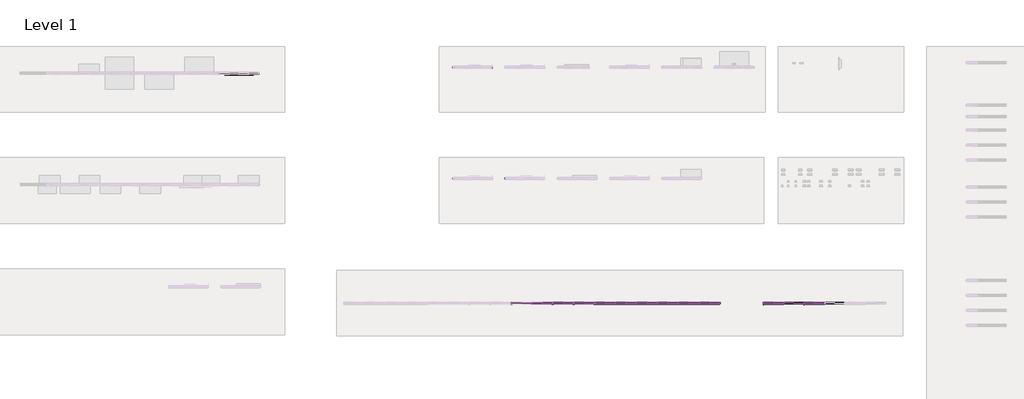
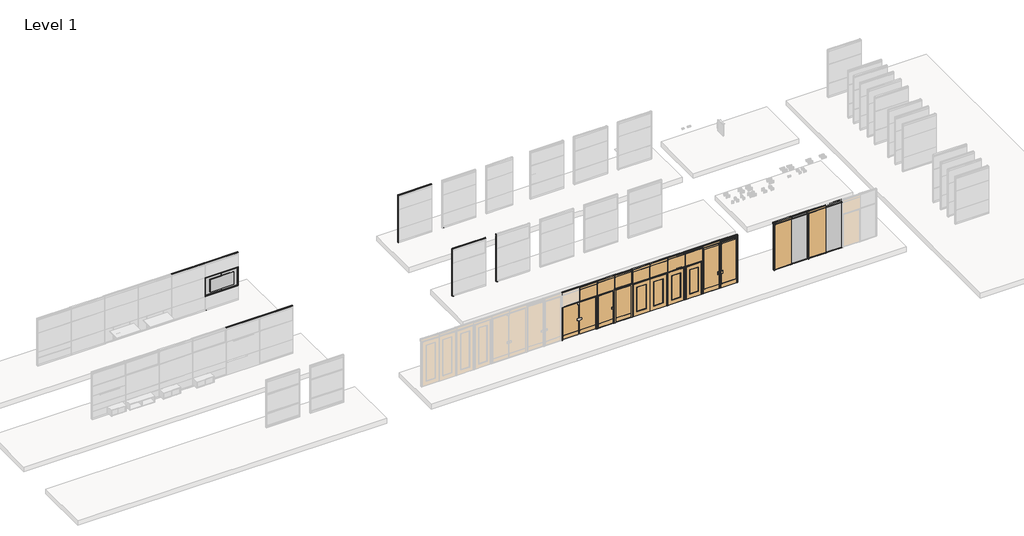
# One storey, part 2 of 13: 62 doors, 55 members, 3 plates.
"""IFC4 building model written with IfcOpenShell, lengths in millimetres."""

from ifc_helpers import new_model, si_unit, origin, place, context, project, spatial, transform, mapped, element, save
from components import door_facb3c76, fascia_door_teknion_ceiling_fpc_b0ff0802, fascia_door_teknion_ceiling_fpc_5290212c, fascia_door_teknion_ceiling_fpc_cee98132, fascia_door_teknion_ceiling_fpc_1744e75c, fascia_door_teknion_ceiling_fpc_97e50246, fascia_door_teknion_ceiling_fpc_d2d9a834, fascia_door_teknion_glass_046dfec6, fascia_door_teknion_glass_85182ea5, fascia_door_teknion_glass_e03882a7, frame_door_teknion_barn_single_glass_ce8aa2a7, frame_door_teknion_barn_single_glass_low_profile_f298f074, frame_door_teknion_horizontal_rail_67457fb7, frame_door_teknion_horizontal_rail_bdd692f0, frame_door_teknion_pivot_low_profile_single_097b559a, frame_door_teknion_pivot_low_profile_single_35d458af, frame_door_teknion_segmented_height_double_338a7b71, frame_door_teknion_single_22a6114e, frame_door_teknion_single_db31a861, glass_insert_7eeb47b9, glass_insert_bf704de9, panel_door_teknion_glass_insert_eabc73e1, panel_door_teknion_glass_insert_9f753669, panel_door_teknion_double_solid_a54a2ffe, panel_door_teknion_glass_glas_door_panel_e6f0001c, panel_door_teknion_glass_glas_door_panel_d5102b43, panel_door_teknion_glass_barn_glass_door_panel_14467133, panel_door_teknion_glass_barn_low_profile_glass_door_panel_56316243, panel_door_teknion_glass_double_glass_double_door_panel_226ff144, panel_door_teknion_low_profile_pivot_77fa765d, panel_door_teknion_low_profile_pivot_glass_insert_89984077, rectangular_mullion_eacba65d, rectangular_mullion_8e80d384, rectangular_mullion_3afcdd40, rectangular_mullion_044499e4, rectangular_mullion_6b0b23d2, rectangular_mullion_f0f61f1f, rectangular_mullion_7ac4b66f, rectangular_mullion_5de60da2, rectangular_mullion_eb75c081, rectangular_mullion_frame_teknion_landscape_vertical_post_05f5e206, rectangular_mullion_frame_teknion_landscape_vertical_post_5ea4eea9, rectangular_mullion_frame_teknion_landscape_vertical_post_1fa3a907, plate_c2148631, system_panel_glazed_ee91c376

model = new_model("IFC4")

# Units and contexts
model_context = context("Model", 3, world=origin())
ifc_project = project(units=[si_unit("LENGTHUNIT", "METRE", prefix="MILLI")], contexts=[model_context])

# Site, building, storey
site = spatial("IfcSite", under=ifc_project)
building = spatial("IfcBuilding", under=site)
storey = spatial("IfcBuildingStorey", under=building, Name="Level 1", Elevation=0.0)

# Doors
placement = place(None, origin())
door_shape = door_facb3c76(model_context)
element("IfcDoor", 1, ObjectType="Door-Hinged_Glass_Segmented_Height-Teknion-Altos-Left_Swing : 84\", Double Glass Fascia", at=placement, inside=storey, context=model_context, shape_type="MappedRepresentation", body=[
    mapped(door_shape, transform((-14098.7760732, 10072.5705104, 3.175), x_axis=(1.0, 0.0, 0.0), y_axis=(0.0, 1.0, 0.0), z_axis=(0.0, 0.0, 1.0))),
])
fascia_door_teknion_ceiling_fpc_shape = fascia_door_teknion_ceiling_fpc_b0ff0802(model_context)
element("IfcDoor", 2, ObjectType="Fascia-Door-Teknion-Ceiling : FPC", at=placement, inside=storey, context=model_context, shape_type="MappedRepresentation", body=[
    mapped(fascia_door_teknion_ceiling_fpc_shape, transform((-6638.170995, 10021.7716559, 2950.845), x_axis=(1.0, 0.0, 0.0), y_axis=(0.0, 1.0, 0.0), z_axis=(0.0, 0.0, 1.0))),
])
element("IfcDoor", 3, ObjectType="Fascia-Door-Teknion-Ceiling : FPC", at=placement, inside=storey, context=model_context, shape_type="MappedRepresentation", body=[
    mapped(fascia_door_teknion_ceiling_fpc_shape, transform((-3377.5318433, 10022.5313649, 2950.845), x_axis=(1.0, 0.0, 0.0), y_axis=(0.0, 1.0, 0.0), z_axis=(0.0, 0.0, 1.0))),
])
fascia_door_teknion_ceiling_fpc_2_shape = fascia_door_teknion_ceiling_fpc_5290212c(model_context)
element("IfcDoor", 4, ObjectType="Fascia-Door-Teknion-Ceiling : FPC", at=placement, inside=storey, context=model_context, shape_type="MappedRepresentation", body=[
    mapped(fascia_door_teknion_ceiling_fpc_2_shape, transform((-6638.170995, 10123.3716559, 2950.845), x_axis=(1.0, 0.0, 0.0), y_axis=(0.0, 1.0, 0.0), z_axis=(0.0, 0.0, 1.0))),
])
element("IfcDoor", 5, ObjectType="Fascia-Door-Teknion-Ceiling : FPC", at=placement, inside=storey, context=model_context, shape_type="MappedRepresentation", body=[
    mapped(fascia_door_teknion_ceiling_fpc_2_shape, transform((-3377.5318433, 10122.6073649, 2950.845), x_axis=(1.0, 0.0, 0.0), y_axis=(0.0, 1.0, 0.0), z_axis=(0.0, 0.0, 1.0))),
])
fascia_door_teknion_ceiling_fpc_3_shape = fascia_door_teknion_ceiling_fpc_cee98132(model_context)
element("IfcDoor", 6, ObjectType="Fascia-Door-Teknion-Ceiling : FPC", at=placement, inside=storey, context=model_context, shape_type="MappedRepresentation", body=[
    mapped(fascia_door_teknion_ceiling_fpc_3_shape, transform((-14098.7760732, 10022.5336559, 2950.845), x_axis=(1.0, 0.0, 0.0), y_axis=(0.0, 1.0, 0.0), z_axis=(0.0, 0.0, 1.0))),
])
element("IfcDoor", 7, ObjectType="Fascia-Door-Teknion-Ceiling : FPC", at=placement, inside=storey, context=model_context, shape_type="MappedRepresentation", body=[
    mapped(fascia_door_teknion_ceiling_fpc_3_shape, transform((-13031.9760732, 10021.7716559, 2950.845), x_axis=(1.0, 0.0, 0.0), y_axis=(0.0, 1.0, 0.0), z_axis=(0.0, 0.0, 1.0))),
])
element("IfcDoor", 8, ObjectType="Fascia-Door-Teknion-Ceiling : FPC", at=placement, inside=storey, context=model_context, shape_type="MappedRepresentation", body=[
    mapped(fascia_door_teknion_ceiling_fpc_3_shape, transform((-9831.5760732, 10021.7716559, 2950.845), x_axis=(1.0, 0.0, 0.0), y_axis=(0.0, 1.0, 0.0), z_axis=(0.0, 0.0, 1.0))),
])
element("IfcDoor", 9, ObjectType="Fascia-Door-Teknion-Ceiling : FPC", at=placement, inside=storey, context=model_context, shape_type="MappedRepresentation", body=[
    mapped(fascia_door_teknion_ceiling_fpc_3_shape, transform((-8764.7760732, 10022.5336559, 2950.845), x_axis=(1.0, 0.0, 0.0), y_axis=(0.0, 1.0, 0.0), z_axis=(0.0, 0.0, 1.0))),
])
element("IfcDoor", 10, ObjectType="Fascia-Door-Teknion-Ceiling : FPC", at=placement, inside=storey, context=model_context, shape_type="MappedRepresentation", body=[
    mapped(fascia_door_teknion_ceiling_fpc_3_shape, transform((-1301.7267652, 10022.5313649, 2950.845), x_axis=(1.0, 0.0, 0.0), y_axis=(0.0, 1.0, 0.0), z_axis=(0.0, 0.0, 1.0))),
])
element("IfcDoor", 11, ObjectType="Fascia-Door-Teknion-Ceiling : FPC", at=placement, inside=storey, context=model_context, shape_type="MappedRepresentation", body=[
    mapped(fascia_door_teknion_ceiling_fpc_3_shape, transform((-7697.9760732, 10021.7716559, 2950.845), x_axis=(1.0, 0.0, 0.0), y_axis=(0.0, 1.0, 0.0), z_axis=(0.0, 0.0, 1.0))),
])
fascia_door_teknion_ceiling_fpc_4_shape = fascia_door_teknion_ceiling_fpc_1744e75c(model_context)
element("IfcDoor", 12, ObjectType="Fascia-Door-Teknion-Ceiling : FPC", at=placement, inside=storey, context=model_context, shape_type="MappedRepresentation", body=[
    mapped(fascia_door_teknion_ceiling_fpc_4_shape, transform((-14098.7760732, 10122.6096559, 2950.845), x_axis=(1.0, 0.0, 0.0), y_axis=(0.0, 1.0, 0.0), z_axis=(0.0, 0.0, 1.0))),
])
element("IfcDoor", 13, ObjectType="Fascia-Door-Teknion-Ceiling : FPC", at=placement, inside=storey, context=model_context, shape_type="MappedRepresentation", body=[
    mapped(fascia_door_teknion_ceiling_fpc_4_shape, transform((-13031.9760732, 10123.3716559, 2950.845), x_axis=(1.0, 0.0, 0.0), y_axis=(0.0, 1.0, 0.0), z_axis=(0.0, 0.0, 1.0))),
])
element("IfcDoor", 14, ObjectType="Fascia-Door-Teknion-Ceiling : FPC", at=placement, inside=storey, context=model_context, shape_type="MappedRepresentation", body=[
    mapped(fascia_door_teknion_ceiling_fpc_4_shape, transform((-9831.5760732, 10123.3716559, 2950.845), x_axis=(1.0, 0.0, 0.0), y_axis=(0.0, 1.0, 0.0), z_axis=(0.0, 0.0, 1.0))),
])
element("IfcDoor", 15, ObjectType="Fascia-Door-Teknion-Ceiling : FPC", at=placement, inside=storey, context=model_context, shape_type="MappedRepresentation", body=[
    mapped(fascia_door_teknion_ceiling_fpc_4_shape, transform((-8764.7760732, 10122.6096559, 2950.845), x_axis=(1.0, 0.0, 0.0), y_axis=(0.0, 1.0, 0.0), z_axis=(0.0, 0.0, 1.0))),
])
element("IfcDoor", 16, ObjectType="Fascia-Door-Teknion-Ceiling : FPC", at=placement, inside=storey, context=model_context, shape_type="MappedRepresentation", body=[
    mapped(fascia_door_teknion_ceiling_fpc_4_shape, transform((-1301.7267652, 10122.6073649, 2950.845), x_axis=(1.0, 0.0, 0.0), y_axis=(0.0, 1.0, 0.0), z_axis=(0.0, 0.0, 1.0))),
])
element("IfcDoor", 17, ObjectType="Fascia-Door-Teknion-Ceiling : FPC", at=placement, inside=storey, context=model_context, shape_type="MappedRepresentation", body=[
    mapped(fascia_door_teknion_ceiling_fpc_4_shape, transform((-7697.9760732, 10123.3716559, 2950.845), x_axis=(1.0, 0.0, 0.0), y_axis=(0.0, 1.0, 0.0), z_axis=(0.0, 0.0, 1.0))),
])
fascia_door_teknion_ceiling_fpc_5_shape = fascia_door_teknion_ceiling_fpc_97e50246(model_context)
element("IfcDoor", 18, ObjectType="Fascia-Door-Teknion-Ceiling : FPC", at=placement, inside=storey, context=model_context, shape_type="MappedRepresentation", body=[
    mapped(fascia_door_teknion_ceiling_fpc_5_shape, transform((-15158.283495, 10123.3716559, 2900.045), x_axis=(1.0, 0.0, 0.0), y_axis=(0.0, 1.0, 0.0), z_axis=(0.0, 0.0, 1.0))),
])
element("IfcDoor", 19, ObjectType="Fascia-Door-Teknion-Ceiling : FPC", at=placement, inside=storey, context=model_context, shape_type="MappedRepresentation", body=[
    mapped(fascia_door_teknion_ceiling_fpc_5_shape, transform((-10891.083495, 10123.3716559, 2900.045), x_axis=(1.0, 0.0, 0.0), y_axis=(0.0, 1.0, 0.0), z_axis=(0.0, 0.0, 1.0))),
])
element("IfcDoor", 20, ObjectType="Fascia-Door-Teknion-Ceiling : FPC", at=placement, inside=storey, context=model_context, shape_type="MappedRepresentation", body=[
    mapped(fascia_door_teknion_ceiling_fpc_5_shape, transform((-11972.4686513, 10123.3716559, 2900.045), x_axis=(1.0, 0.0, 0.0), y_axis=(0.0, 1.0, 0.0), z_axis=(0.0, 0.0, 1.0))),
])
fascia_door_teknion_ceiling_fpc_6_shape = fascia_door_teknion_ceiling_fpc_d2d9a834(model_context)
element("IfcDoor", 21, ObjectType="Fascia-Door-Teknion-Ceiling : FPC", at=placement, inside=storey, context=model_context, shape_type="MappedRepresentation", body=[
    mapped(fascia_door_teknion_ceiling_fpc_6_shape, transform((-15158.283495, 10021.7716559, 2900.045), x_axis=(1.0, 0.0, 0.0), y_axis=(0.0, 1.0, 0.0), z_axis=(0.0, 0.0, 1.0))),
])
element("IfcDoor", 22, ObjectType="Fascia-Door-Teknion-Ceiling : FPC", at=placement, inside=storey, context=model_context, shape_type="MappedRepresentation", body=[
    mapped(fascia_door_teknion_ceiling_fpc_6_shape, transform((-10891.083495, 10021.7716559, 2900.045), x_axis=(1.0, 0.0, 0.0), y_axis=(0.0, 1.0, 0.0), z_axis=(0.0, 0.0, 1.0))),
])
element("IfcDoor", 23, ObjectType="Fascia-Door-Teknion-Ceiling : FPC", at=placement, inside=storey, context=model_context, shape_type="MappedRepresentation", body=[
    mapped(fascia_door_teknion_ceiling_fpc_6_shape, transform((-11972.4686513, 10021.7716559, 2900.045), x_axis=(1.0, 0.0, 0.0), y_axis=(0.0, 1.0, 0.0), z_axis=(0.0, 0.0, 1.0))),
])
fascia_door_teknion_glass_shape = fascia_door_teknion_glass_046dfec6(model_context)
element("IfcDoor", 24, ObjectType="Fascia-Door-Teknion-Glass : FPGD", at=placement, inside=storey, context=model_context, shape_type="MappedRepresentation", body=[
    mapped(fascia_door_teknion_glass_shape, transform((-15165.5709951, 10072.5716559, 2139.95), x_axis=(1.0, 0.0, 0.0), y_axis=(0.0, 1.0, 0.0), z_axis=(0.0, 0.0, 1.0))),
])
element("IfcDoor", 25, ObjectType="Fascia-Door-Teknion-Glass : FPGD", at=placement, inside=storey, context=model_context, shape_type="MappedRepresentation", body=[
    mapped(fascia_door_teknion_glass_shape, transform((-11965.1811512, 10072.5716559, 2139.95), x_axis=(1.0, 0.0, 0.0), y_axis=(0.0, 1.0, 0.0), z_axis=(0.0, 0.0, 1.0))),
])
element("IfcDoor", 26, ObjectType="Fascia-Door-Teknion-Glass : FPGD", at=placement, inside=storey, context=model_context, shape_type="MappedRepresentation", body=[
    mapped(fascia_door_teknion_glass_shape, transform((-10898.3709951, 10072.5716559, 2139.95), x_axis=(1.0, 0.0, 0.0), y_axis=(0.0, 1.0, 0.0), z_axis=(0.0, 0.0, 1.0))),
])
fascia_door_teknion_glass_2_shape = fascia_door_teknion_glass_85182ea5(model_context)
element("IfcDoor", 27, ObjectType="Fascia-Door-Teknion-Glass : FPGD", at=placement, inside=storey, context=model_context, shape_type="MappedRepresentation", body=[
    mapped(fascia_door_teknion_glass_2_shape, transform((-14098.7760732, 10072.5716559, 2139.95), x_axis=(1.0, 0.0, 0.0), y_axis=(0.0, 1.0, 0.0), z_axis=(0.0, 0.0, 1.0))),
])
element("IfcDoor", 28, ObjectType="Fascia-Door-Teknion-Glass : FPGD", at=placement, inside=storey, context=model_context, shape_type="MappedRepresentation", body=[
    mapped(fascia_door_teknion_glass_2_shape, transform((-9831.5760732, 10072.5716559, 2139.95), x_axis=(1.0, 0.0, 0.0), y_axis=(0.0, 1.0, 0.0), z_axis=(0.0, 0.0, 1.0))),
])
element("IfcDoor", 29, ObjectType="Fascia-Door-Teknion-Glass : FPGD", at=placement, inside=storey, context=model_context, shape_type="MappedRepresentation", body=[
    mapped(fascia_door_teknion_glass_2_shape, transform((-8764.7760732, 10072.5716559, 2139.95), x_axis=(1.0, 0.0, 0.0), y_axis=(0.0, 1.0, 0.0), z_axis=(0.0, 0.0, 1.0))),
])
fascia_door_teknion_glass_3_shape = fascia_door_teknion_glass_e03882a7(model_context)
element("IfcDoor", 30, ObjectType="Fascia-Door-Teknion-Glass : FPGC", at=placement, inside=storey, context=model_context, shape_type="MappedRepresentation", body=[
    mapped(fascia_door_teknion_glass_3_shape, transform((-13019.2760732, 10072.5716559, 2139.95), x_axis=(1.0, 0.0, 0.0), y_axis=(0.0, 1.0, 0.0), z_axis=(0.0, 0.0, 1.0))),
])
frame_door_teknion_barn_single_glass_shape = frame_door_teknion_barn_single_glass_ce8aa2a7(model_context)
element("IfcDoor", 31, ObjectType="Frame-Door-Teknion-Barn-Single-Glass : FPBGFJ", at=placement, inside=storey, context=model_context, shape_type="MappedRepresentation", body=[
    mapped(frame_door_teknion_barn_single_glass_shape, transform((-3377.5318433, 10072.5693649, 3.175), x_axis=(1.0, 0.0, 0.0), y_axis=(0.0, 1.0, 0.0), z_axis=(0.0, 0.0, 1.0))),
])
frame_door_teknion_barn_single_glass_low_profile_shape = frame_door_teknion_barn_single_glass_low_profile_f298f074(model_context)
element("IfcDoor", 32, ObjectType="Frame-Door-Teknion-Barn-Single-Glass_Low_Profile : FPUGFJ", at=placement, inside=storey, context=model_context, shape_type="MappedRepresentation", body=[
    mapped(frame_door_teknion_barn_single_glass_low_profile_shape, transform((-1301.7267652, 10072.5693649, 3.175), x_axis=(1.0, 0.0, 0.0), y_axis=(0.0, 1.0, 0.0), z_axis=(0.0, 0.0, 1.0))),
])
frame_door_teknion_horizontal_rail_shape = frame_door_teknion_horizontal_rail_67457fb7(model_context)
element("IfcDoor", 33, ObjectType="Frame-Door-Teknion-Horizontal_Rail : FPKK", at=placement, inside=storey, context=model_context, shape_type="MappedRepresentation", body=[
    mapped(frame_door_teknion_horizontal_rail_shape, transform((-14098.7760732, 10072.5716559, 2139.95), x_axis=(1.0, 0.0, 0.0), y_axis=(0.0, 1.0, 0.0), z_axis=(0.0, 0.0, 1.0))),
])
element("IfcDoor", 34, ObjectType="Frame-Door-Teknion-Horizontal_Rail : FPKK", at=placement, inside=storey, context=model_context, shape_type="MappedRepresentation", body=[
    mapped(frame_door_teknion_horizontal_rail_shape, transform((-14098.7760732, 10072.5716559, 2947.67), x_axis=(1.0, 0.0, 0.0), y_axis=(0.0, 1.0, 0.0), z_axis=(0.0, 0.0, 1.0))),
])
element("IfcDoor", 35, ObjectType="Frame-Door-Teknion-Horizontal_Rail : FPKK", at=placement, inside=storey, context=model_context, shape_type="MappedRepresentation", body=[
    mapped(frame_door_teknion_horizontal_rail_shape, transform((-13031.9760732, 10072.5716559, 2139.95), x_axis=(1.0, 0.0, 0.0), y_axis=(0.0, 1.0, 0.0), z_axis=(0.0, 0.0, 1.0))),
])
element("IfcDoor", 36, ObjectType="Frame-Door-Teknion-Horizontal_Rail : FPKK", at=placement, inside=storey, context=model_context, shape_type="MappedRepresentation", body=[
    mapped(frame_door_teknion_horizontal_rail_shape, transform((-13031.9760732, 10072.5716559, 2947.67), x_axis=(1.0, 0.0, 0.0), y_axis=(0.0, 1.0, 0.0), z_axis=(0.0, 0.0, 1.0))),
])
element("IfcDoor", 37, ObjectType="Frame-Door-Teknion-Horizontal_Rail : FPKK", at=placement, inside=storey, context=model_context, shape_type="MappedRepresentation", body=[
    mapped(frame_door_teknion_horizontal_rail_shape, transform((-9831.5760732, 10072.5716559, 2139.95), x_axis=(1.0, 0.0, 0.0), y_axis=(0.0, 1.0, 0.0), z_axis=(0.0, 0.0, 1.0))),
])
element("IfcDoor", 38, ObjectType="Frame-Door-Teknion-Horizontal_Rail : FPKK", at=placement, inside=storey, context=model_context, shape_type="MappedRepresentation", body=[
    mapped(frame_door_teknion_horizontal_rail_shape, transform((-9831.5760732, 10072.5716559, 2947.67), x_axis=(1.0, 0.0, 0.0), y_axis=(0.0, 1.0, 0.0), z_axis=(0.0, 0.0, 1.0))),
])
element("IfcDoor", 39, ObjectType="Frame-Door-Teknion-Horizontal_Rail : FPKK", at=placement, inside=storey, context=model_context, shape_type="MappedRepresentation", body=[
    mapped(frame_door_teknion_horizontal_rail_shape, transform((-8764.7760732, 10072.5716559, 2139.95), x_axis=(1.0, 0.0, 0.0), y_axis=(0.0, 1.0, 0.0), z_axis=(0.0, 0.0, 1.0))),
])
element("IfcDoor", 40, ObjectType="Frame-Door-Teknion-Horizontal_Rail : FPKK", at=placement, inside=storey, context=model_context, shape_type="MappedRepresentation", body=[
    mapped(frame_door_teknion_horizontal_rail_shape, transform((-8764.7760732, 10072.5716559, 2947.67), x_axis=(1.0, 0.0, 0.0), y_axis=(0.0, 1.0, 0.0), z_axis=(0.0, 0.0, 1.0))),
])
element("IfcDoor", 41, ObjectType="Frame-Door-Teknion-Horizontal_Rail : FPKK", at=placement, inside=storey, context=model_context, shape_type="MappedRepresentation", body=[
    mapped(frame_door_teknion_horizontal_rail_shape, transform((-7697.9760732, 10072.5716559, 2947.67), x_axis=(1.0, 0.0, 0.0), y_axis=(0.0, 1.0, 0.0), z_axis=(0.0, 0.0, 1.0))),
])
frame_door_teknion_horizontal_rail_2_shape = frame_door_teknion_horizontal_rail_bdd692f0(model_context)
element("IfcDoor", 42, ObjectType="Frame-Door-Teknion-Horizontal_Rail : FPKK", at=placement, inside=storey, context=model_context, shape_type="MappedRepresentation", body=[
    mapped(frame_door_teknion_horizontal_rail_2_shape, transform((-6638.170995, 10072.5716559, 2947.67), x_axis=(1.0, 0.0, 0.0), y_axis=(0.0, 1.0, 0.0), z_axis=(0.0, 0.0, 1.0))),
])
frame_door_teknion_pivot_low_profile_single_shape = frame_door_teknion_pivot_low_profile_single_097b559a(model_context)
element("IfcDoor", 43, ObjectType="Frame-Door-Teknion-Pivot_Low_Profile-Single : FPFHS", at=placement, inside=storey, context=model_context, shape_type="MappedRepresentation", body=[
    mapped(frame_door_teknion_pivot_low_profile_single_shape, transform((-6638.170995, 10072.5716559, 3.175), x_axis=(1.0, 0.0, 0.0), y_axis=(0.0, 1.0, 0.0), z_axis=(0.0, 0.0, 1.0))),
])
frame_door_teknion_pivot_low_profile_single_2_shape = frame_door_teknion_pivot_low_profile_single_35d458af(model_context)
element("IfcDoor", 44, ObjectType="Frame-Door-Teknion-Pivot_Low_Profile-Single : FPFHS", at=placement, inside=storey, context=model_context, shape_type="MappedRepresentation", body=[
    mapped(frame_door_teknion_pivot_low_profile_single_2_shape, transform((-7697.9760732, 10072.5716559, 3.175), x_axis=(1.0, 0.0, 0.0), y_axis=(0.0, 1.0, 0.0), z_axis=(0.0, 0.0, 1.0))),
])
frame_door_teknion_segmented_height_double_shape = frame_door_teknion_segmented_height_double_338a7b71(model_context)
element("IfcDoor", 45, ObjectType="Frame-Door-Teknion-Segmented_Height_Double : FPFDS", at=placement, inside=storey, context=model_context, shape_type="MappedRepresentation", body=[
    mapped(frame_door_teknion_segmented_height_double_shape, transform((-11431.7760732, 10072.5716559, 3.175), x_axis=(1.0, 0.0, 0.0), y_axis=(0.0, 1.0, 0.0), z_axis=(0.0, 0.0, 1.0))),
])
element("IfcDoor", 46, ObjectType="Frame-Door-Teknion-Segmented_Height_Double-Glass : FPFJS", at=placement, inside=storey, context=model_context, shape_type="MappedRepresentation", body=[
    mapped(frame_door_teknion_segmented_height_double_shape, transform((-15698.9760732, 10072.5716559, 3.175), x_axis=(1.0, 0.0, 0.0), y_axis=(0.0, 1.0, 0.0), z_axis=(0.0, 0.0, 1.0))),
])
frame_door_teknion_single_shape = frame_door_teknion_single_22a6114e(model_context)
element("IfcDoor", 47, ObjectType="Frame-Door-Teknion-Single : FPFHS", at=placement, inside=storey, context=model_context, shape_type="MappedRepresentation", body=[
    mapped(frame_door_teknion_single_shape, transform((-9831.5760732, 10072.5716559, 3.175), x_axis=(1.0, 0.0, 0.0), y_axis=(0.0, 1.0, 0.0), z_axis=(0.0, 0.0, 1.0))),
])
frame_door_teknion_single_2_shape = frame_door_teknion_single_db31a861(model_context)
element("IfcDoor", 48, ObjectType="Frame-Door-Teknion-Single : FPFHS", at=placement, inside=storey, context=model_context, shape_type="MappedRepresentation", body=[
    mapped(frame_door_teknion_single_2_shape, transform((-8764.7760732, 10072.5716559, 3.175), x_axis=(1.0, 0.0, 0.0), y_axis=(0.0, 1.0, 0.0), z_axis=(0.0, 0.0, 1.0))),
])
element("IfcDoor", 49, ObjectType="Frame-Door-Teknion-Single-Glass : FPFJS", at=placement, inside=storey, context=model_context, shape_type="MappedRepresentation", body=[
    mapped(frame_door_teknion_single_2_shape, transform((-14098.7760732, 10072.5716559, 3.175), x_axis=(1.0, 0.0, 0.0), y_axis=(0.0, 1.0, 0.0), z_axis=(0.0, 0.0, 1.0))),
])
element("IfcDoor", 50, ObjectType="Frame-Door-Teknion-Single-Glass : FPFJS", at=placement, inside=storey, context=model_context, shape_type="MappedRepresentation", body=[
    mapped(frame_door_teknion_single_shape, transform((-13031.9760732, 10072.5716559, 3.175), x_axis=(1.0, 0.0, 0.0), y_axis=(0.0, 1.0, 0.0), z_axis=(0.0, 0.0, 1.0))),
])
glass_insert_shape = glass_insert_7eeb47b9(model_context)
element("IfcDoor", 51, ObjectType="Door-Pivot_Low_Profile-Teknion-Altos-Left_Swing : Glass Insert", at=placement, inside=storey, context=model_context, shape_type="MappedRepresentation", body=[
    mapped(glass_insert_shape, transform((-7697.9760732, 10072.5705104, 3.175), x_axis=(1.0, 0.0, 0.0), y_axis=(0.0, 1.0, 0.0), z_axis=(0.0, 0.0, 1.0))),
])
glass_insert_2_shape = glass_insert_bf704de9(model_context)
element("IfcDoor", 52, ObjectType="Door-Pivot_Low_Profile-Teknion-Altos-Right_Swing : Glass Insert", at=placement, inside=storey, context=model_context, shape_type="MappedRepresentation", body=[
    mapped(glass_insert_2_shape, transform((-6638.170995, 10072.5705104, 3.175), x_axis=(1.0, 0.0, 0.0), y_axis=(0.0, 1.0, 0.0), z_axis=(0.0, 0.0, 1.0))),
])
panel_door_teknion_glass_insert_shape = panel_door_teknion_glass_insert_eabc73e1(model_context)
element("IfcDoor", 53, ObjectType="Panel-Door-Teknion : Glass Insert", at=placement, inside=storey, context=model_context, shape_type="MappedRepresentation", body=[
    mapped(panel_door_teknion_glass_insert_shape, transform((-9832.5186735, 10043.9966559, 3.175), x_axis=(1.0, 0.0, 0.0), y_axis=(0.0, 1.0, 0.0), z_axis=(0.0, 0.0, 1.0))),
])
panel_door_teknion_glass_insert_2_shape = panel_door_teknion_glass_insert_9f753669(model_context)
element("IfcDoor", 54, ObjectType="Panel-Door-Teknion : Glass Insert", at=placement, inside=storey, context=model_context, shape_type="MappedRepresentation", body=[
    mapped(panel_door_teknion_glass_insert_2_shape, transform((-8763.7600732, 10044.7586559, 3.175), x_axis=(-1.0, 0.0, 0.0), y_axis=(0.0, -1.0, 0.0), z_axis=(0.0, 0.0, 1.0))),
])
panel_door_teknion_double_solid_shape = panel_door_teknion_double_solid_a54a2ffe(model_context)
element("IfcDoor", 55, ObjectType="Panel-Door-Teknion-Double : Solid", at=placement, inside=storey, context=model_context, shape_type="MappedRepresentation", body=[
    mapped(panel_door_teknion_double_solid_shape, transform((-11921.6785732, 10043.9966559, 3.175), x_axis=(1.0, 0.0, 0.0), y_axis=(0.0, 1.0, 0.0), z_axis=(0.0, 0.0, 1.0))),
])
panel_door_teknion_glass_glas_door_panel_shape = panel_door_teknion_glass_glas_door_panel_e6f0001c(model_context)
element("IfcDoor", 56, ObjectType="Panel-Door-Teknion-Glass : Glas Door Panel", at=placement, inside=storey, context=model_context, shape_type="MappedRepresentation", body=[
    mapped(panel_door_teknion_glass_glas_door_panel_shape, transform((-14098.2807732, 10065.4411149, 3.175), x_axis=(1.0, 0.0, 0.0), y_axis=(0.0, 1.0, 0.0), z_axis=(0.0, 0.0, 1.0))),
])
panel_door_teknion_glass_glas_door_panel_2_shape = panel_door_teknion_glass_glas_door_panel_d5102b43(model_context)
element("IfcDoor", 57, ObjectType="Panel-Door-Teknion-Glass : Glas Door Panel", at=placement, inside=storey, context=model_context, shape_type="MappedRepresentation", body=[
    mapped(panel_door_teknion_glass_glas_door_panel_2_shape, transform((-13031.4807732, 10065.4411149, 3.175), x_axis=(-1.0, 0.0, 0.0), y_axis=(0.0, -1.0, 0.0), z_axis=(0.0, 0.0, 1.0))),
])
panel_door_teknion_glass_barn_glass_door_panel_shape = panel_door_teknion_glass_barn_glass_door_panel_14467133(model_context)
element("IfcDoor", 58, ObjectType="Panel-Door-Teknion-Glass-Barn : Glass Door Panel", at=placement, inside=storey, context=model_context, shape_type="MappedRepresentation", body=[
    mapped(panel_door_teknion_glass_barn_glass_door_panel_shape, transform((-3374.576595, 10007.6610549, 3.175), x_axis=(-1.0, 0.0, 0.0), y_axis=(0.0, -1.0, 0.0), z_axis=(0.0, 0.0, 1.0))),
])
panel_door_teknion_glass_barn_low_profile_glass_door_panel_shape = panel_door_teknion_glass_barn_low_profile_glass_door_panel_56316243(model_context)
element("IfcDoor", 59, ObjectType="Panel-Door-Teknion-Glass-Barn_Low_Profile : Glass Door Panel", at=placement, inside=storey, context=model_context, shape_type="MappedRepresentation", body=[
    mapped(panel_door_teknion_glass_barn_low_profile_glass_door_panel_shape, transform((-1298.7715169, 10004.4084649, 3.175), x_axis=(-1.0, 0.0, 0.0), y_axis=(0.0, -1.0, 0.0), z_axis=(0.0, 0.0, 1.0))),
])
panel_door_teknion_glass_double_glass_double_door_panel_shape = panel_door_teknion_glass_double_glass_double_door_panel_226ff144(model_context)
element("IfcDoor", 60, ObjectType="Panel-Door-Teknion-Glass-Double : Glass Double Door Panel", at=placement, inside=storey, context=model_context, shape_type="MappedRepresentation", body=[
    mapped(panel_door_teknion_glass_double_glass_double_door_panel_shape, transform((-15724.3760732, 10065.4469559, 3.175), x_axis=(1.0, 0.0, 0.0), y_axis=(0.0, 1.0, 0.0), z_axis=(0.0, 0.0, 1.0))),
])
panel_door_teknion_low_profile_pivot_shape = panel_door_teknion_low_profile_pivot_77fa765d(model_context)
element("IfcDoor", 61, ObjectType="Panel-Door-Teknion-Low_Profile_Pivot : FPDPZ", at=placement, inside=storey, context=model_context, shape_type="MappedRepresentation", body=[
    mapped(panel_door_teknion_low_profile_pivot_shape, transform((-7697.9760732, 10045.5206559, 3.175), x_axis=(-1.0, 0.0, 0.0), y_axis=(0.0, -1.0, 0.0), z_axis=(0.0, 0.0, 1.0))),
])
panel_door_teknion_low_profile_pivot_glass_insert_shape = panel_door_teknion_low_profile_pivot_glass_insert_89984077(model_context)
element("IfcDoor", 62, ObjectType="Panel-Door-Teknion-Low_Profile_Pivot : Glass Insert", at=placement, inside=storey, context=model_context, shape_type="MappedRepresentation", body=[
    mapped(panel_door_teknion_low_profile_pivot_glass_insert_shape, transform((-6638.170995, 10045.5206559, 3.175), x_axis=(-1.0, 0.0, 0.0), y_axis=(0.0, -1.0, 0.0), z_axis=(0.0, 0.0, 1.0))),
])

# Members
rectangular_mullion_shape = rectangular_mullion_eacba65d(model_context)
element("IfcMember", 63, ObjectType="Rectangular Mullion : Frame-Teknion-Altos-Ceiling_Channel", at=placement, inside=storey, context=model_context, shape_type="MappedRepresentation", body=[
    mapped(rectangular_mullion_shape, transform((-6125.7557607, 10072.5705104, 3048.0), x_axis=(0.0, 0.0, 1.0), y_axis=(0.0, -1.0, 0.0), z_axis=(1.0, 0.0, 0.0))),
])
element("IfcMember", 64, ObjectType="Rectangular Mullion : Frame-Teknion-Altos-Ceiling_Channel", at=placement, inside=storey, context=model_context, shape_type="MappedRepresentation", body=[
    mapped(rectangular_mullion_shape, transform((-2865.1166089, 10072.5705104, 3048.0), x_axis=(0.0, 0.0, 1.0), y_axis=(0.0, -1.0, 0.0), z_axis=(1.0, 0.0, 0.0))),
])
rectangular_mullion_2_shape = rectangular_mullion_8e80d384(model_context)
element("IfcMember", 65, ObjectType="Rectangular Mullion : Frame-Teknion-Altos-Base_Channel", at=placement, inside=storey, context=model_context, shape_type="MappedRepresentation", body=[
    mapped(rectangular_mullion_2_shape, transform((-7150.5862294, 10072.5705104, 0.0), x_axis=(0.0, 0.0, -1.0), y_axis=(0.0, -1.0, 0.0), z_axis=(-1.0, 0.0, 0.0))),
])
element("IfcMember", 66, ObjectType="Rectangular Mullion : Frame-Teknion-Altos-Base_Channel", at=placement, inside=storey, context=model_context, shape_type="MappedRepresentation", body=[
    mapped(rectangular_mullion_2_shape, transform((-3889.9470777, 10072.5705104, 0.0), x_axis=(0.0, 0.0, -1.0), y_axis=(0.0, -1.0, 0.0), z_axis=(-1.0, 0.0, 0.0))),
])
rectangular_mullion_3_shape = rectangular_mullion_3afcdd40(model_context)
element("IfcMember", 67, ObjectType="Rectangular Mullion : Frame-Teknion-Altos-Base_Channel", at=placement, inside=storey, context=model_context, shape_type="MappedRepresentation", body=[
    mapped(rectangular_mullion_3_shape, transform((-14618.1862294, 10072.5705104, 0.0), x_axis=(0.0, 0.0, -1.0), y_axis=(0.0, -1.0, 0.0), z_axis=(-1.0, 0.0, 0.0))),
])
element("IfcMember", 68, ObjectType="Rectangular Mullion : Frame-Teknion-Altos-Base_Channel", at=placement, inside=storey, context=model_context, shape_type="MappedRepresentation", body=[
    mapped(rectangular_mullion_3_shape, transform((-13551.3862294, 10072.5705104, 0.0), x_axis=(0.0, 0.0, -1.0), y_axis=(0.0, -1.0, 0.0), z_axis=(-1.0, 0.0, 0.0))),
])
element("IfcMember", 69, ObjectType="Rectangular Mullion : Frame-Teknion-Altos-Base_Channel", at=placement, inside=storey, context=model_context, shape_type="MappedRepresentation", body=[
    mapped(rectangular_mullion_3_shape, transform((-10350.9862294, 10072.5705104, 0.0), x_axis=(0.0, 0.0, -1.0), y_axis=(0.0, -1.0, 0.0), z_axis=(-1.0, 0.0, 0.0))),
])
element("IfcMember", 70, ObjectType="Rectangular Mullion : Frame-Teknion-Altos-Base_Channel", at=placement, inside=storey, context=model_context, shape_type="MappedRepresentation", body=[
    mapped(rectangular_mullion_3_shape, transform((-9284.1862294, 10072.5705104, 0.0), x_axis=(0.0, 0.0, -1.0), y_axis=(0.0, -1.0, 0.0), z_axis=(-1.0, 0.0, 0.0))),
])
element("IfcMember", 71, ObjectType="Rectangular Mullion : Frame-Teknion-Altos-Base_Channel", at=placement, inside=storey, context=model_context, shape_type="MappedRepresentation", body=[
    mapped(rectangular_mullion_3_shape, transform((-8217.3862294, 10072.5705104, 0.0), x_axis=(0.0, 0.0, -1.0), y_axis=(0.0, -1.0, 0.0), z_axis=(-1.0, 0.0, 0.0))),
])
element("IfcMember", 72, ObjectType="Rectangular Mullion : Frame-Teknion-Altos-Base_Channel", at=placement, inside=storey, context=model_context, shape_type="MappedRepresentation", body=[
    mapped(rectangular_mullion_3_shape, transform((-1821.1369214, 10072.5705104, 0.0), x_axis=(0.0, 0.0, -1.0), y_axis=(0.0, -1.0, 0.0), z_axis=(-1.0, 0.0, 0.0))),
])
element("IfcMember", 73, ObjectType="Rectangular Mullion : Frame-Teknion-Altos-Ceiling_Channel", at=placement, inside=storey, context=model_context, shape_type="MappedRepresentation", body=[
    mapped(rectangular_mullion_3_shape, transform((-13579.3659169, 10072.5705104, 3048.0), x_axis=(0.0, 0.0, 1.0), y_axis=(0.0, -1.0, 0.0), z_axis=(1.0, 0.0, 0.0))),
])
element("IfcMember", 74, ObjectType="Rectangular Mullion : Frame-Teknion-Altos-Ceiling_Channel", at=placement, inside=storey, context=model_context, shape_type="MappedRepresentation", body=[
    mapped(rectangular_mullion_3_shape, transform((-12512.5659169, 10072.5705104, 3048.0), x_axis=(0.0, 0.0, 1.0), y_axis=(0.0, -1.0, 0.0), z_axis=(1.0, 0.0, 0.0))),
])
element("IfcMember", 75, ObjectType="Rectangular Mullion : Frame-Teknion-Altos-Ceiling_Channel", at=placement, inside=storey, context=model_context, shape_type="MappedRepresentation", body=[
    mapped(rectangular_mullion_3_shape, transform((-9312.1659169, 10072.5705104, 3048.0), x_axis=(0.0, 0.0, 1.0), y_axis=(0.0, -1.0, 0.0), z_axis=(1.0, 0.0, 0.0))),
])
element("IfcMember", 76, ObjectType="Rectangular Mullion : Frame-Teknion-Altos-Ceiling_Channel", at=placement, inside=storey, context=model_context, shape_type="MappedRepresentation", body=[
    mapped(rectangular_mullion_3_shape, transform((-8245.3659169, 10072.5705104, 3048.0), x_axis=(0.0, 0.0, 1.0), y_axis=(0.0, -1.0, 0.0), z_axis=(1.0, 0.0, 0.0))),
])
element("IfcMember", 77, ObjectType="Rectangular Mullion : Frame-Teknion-Altos-Ceiling_Channel", at=placement, inside=storey, context=model_context, shape_type="MappedRepresentation", body=[
    mapped(rectangular_mullion_3_shape, transform((-7178.5659169, 10072.5705104, 3048.0), x_axis=(0.0, 0.0, 1.0), y_axis=(0.0, -1.0, 0.0), z_axis=(1.0, 0.0, 0.0))),
])
element("IfcMember", 78, ObjectType="Rectangular Mullion : Frame-Teknion-Altos-Ceiling_Channel", at=placement, inside=storey, context=model_context, shape_type="MappedRepresentation", body=[
    mapped(rectangular_mullion_3_shape, transform((-782.3166089, 10072.5705104, 3048.0), x_axis=(0.0, 0.0, 1.0), y_axis=(0.0, -1.0, 0.0), z_axis=(1.0, 0.0, 0.0))),
])
rectangular_mullion_4_shape = rectangular_mullion_044499e4(model_context)
element("IfcMember", 79, ObjectType="Rectangular Mullion : Frame-Teknion-Altos-Ceiling_Channel", at=placement, inside=storey, context=model_context, shape_type="MappedRepresentation", body=[
    mapped(rectangular_mullion_4_shape, transform((-14646.1659169, 10072.5705104, 3048.0), x_axis=(0.0, 0.0, 1.0), y_axis=(0.0, -1.0, 0.0), z_axis=(1.0, 0.0, 0.0))),
])
element("IfcMember", 80, ObjectType="Rectangular Mullion : Frame-Teknion-Altos-Ceiling_Channel", at=placement, inside=storey, context=model_context, shape_type="MappedRepresentation", body=[
    mapped(rectangular_mullion_4_shape, transform((-10378.9659169, 10072.5705104, 3048.0), x_axis=(0.0, 0.0, 1.0), y_axis=(0.0, -1.0, 0.0), z_axis=(1.0, 0.0, 0.0))),
])
element("IfcMember", 81, ObjectType="Rectangular Mullion : Frame-Teknion-Altos-Base_Channel", at=placement, inside=storey, context=model_context, shape_type="MappedRepresentation", body=[
    mapped(rectangular_mullion_4_shape, transform((-12484.5862294, 10072.5705104, 0.0), x_axis=(0.0, 0.0, -1.0), y_axis=(0.0, -1.0, 0.0), z_axis=(-1.0, 0.0, 0.0))),
])
rectangular_mullion_5_shape = rectangular_mullion_6b0b23d2(model_context)
element("IfcMember", 82, ObjectType="Rectangular Mullion : Frame-Teknion-Altos-Base_Channel", at=placement, inside=storey, context=model_context, shape_type="MappedRepresentation", body=[
    mapped(rectangular_mullion_5_shape, transform((-2837.1369214, 10072.5705104, 0.0), x_axis=(0.0, 0.0, -1.0), y_axis=(0.0, -1.0, 0.0), z_axis=(-1.0, 0.0, 0.0))),
])
element("IfcMember", 83, ObjectType="Rectangular Mullion : Frame-Teknion-Altos-Base_Channel", at=placement, inside=storey, context=model_context, shape_type="MappedRepresentation", body=[
    mapped(rectangular_mullion_5_shape, transform((-754.3369214, 10072.5705104, 0.0), x_axis=(0.0, 0.0, -1.0), y_axis=(0.0, -1.0, 0.0), z_axis=(-1.0, 0.0, 0.0))),
])
element("IfcMember", 84, ObjectType="Rectangular Mullion : Frame-Teknion-Altos-Ceiling_Channel", at=placement, inside=storey, context=model_context, shape_type="MappedRepresentation", body=[
    mapped(rectangular_mullion_5_shape, transform((-1849.1166089, 10072.5705104, 3048.0), x_axis=(0.0, 0.0, 1.0), y_axis=(0.0, -1.0, 0.0), z_axis=(1.0, 0.0, 0.0))),
])
rectangular_mullion_6_shape = rectangular_mullion_f0f61f1f(model_context)
element("IfcMember", 85, ObjectType="Rectangular Mullion : Frame-Teknion-Altos-Ceiling_Channel", at=placement, inside=storey, context=model_context, shape_type="MappedRepresentation", body=[
    mapped(rectangular_mullion_6_shape, transform((-17738.145849, 22107.2569796, 3048.0), x_axis=(0.0, 0.0, 1.0), y_axis=(0.0, -1.0, 0.0), z_axis=(1.0, 0.0, 0.0))),
])
element("IfcMember", 86, ObjectType="Rectangular Mullion : Frame-Teknion-Altos-Ceiling_Channel", at=placement, inside=storey, context=model_context, shape_type="MappedRepresentation", body=[
    mapped(rectangular_mullion_6_shape, transform((-17738.145849, 16425.5309796, 3048.0), x_axis=(0.0, 0.0, 1.0), y_axis=(0.0, -1.0, 0.0), z_axis=(1.0, 0.0, 0.0))),
])
element("IfcMember", 87, ObjectType="Rectangular Mullion : Frame-Teknion-Altos-Base_Channel", at=placement, inside=storey, context=model_context, shape_type="MappedRepresentation", body=[
    mapped(rectangular_mullion_6_shape, transform((-19714.186474, 22107.2569796, 0.0), x_axis=(0.0, 0.0, -1.0), y_axis=(0.0, -1.0, 0.0), z_axis=(-1.0, 0.0, 0.0))),
])
element("IfcMember", 88, ObjectType="Rectangular Mullion : Frame-Teknion-Altos-Base_Channel", at=placement, inside=storey, context=model_context, shape_type="MappedRepresentation", body=[
    mapped(rectangular_mullion_6_shape, transform((-17047.186474, 22107.2569796, 0.0), x_axis=(0.0, 0.0, -1.0), y_axis=(0.0, -1.0, 0.0), z_axis=(-1.0, 0.0, 0.0))),
])
element("IfcMember", 89, ObjectType="Rectangular Mullion : Frame-Teknion-Altos-Base_Channel", at=placement, inside=storey, context=model_context, shape_type="MappedRepresentation", body=[
    mapped(rectangular_mullion_6_shape, transform((-19714.186474, 16425.5309796, 0.0), x_axis=(0.0, 0.0, -1.0), y_axis=(0.0, -1.0, 0.0), z_axis=(-1.0, 0.0, 0.0))),
])
element("IfcMember", 90, ObjectType="Rectangular Mullion : Frame-Teknion-Altos-Base_Channel", at=placement, inside=storey, context=model_context, shape_type="MappedRepresentation", body=[
    mapped(rectangular_mullion_6_shape, transform((-17047.186474, 16425.5309796, 0.0), x_axis=(0.0, 0.0, -1.0), y_axis=(0.0, -1.0, 0.0), z_axis=(-1.0, 0.0, 0.0))),
])
rectangular_mullion_7_shape = rectangular_mullion_7ac4b66f(model_context)
element("IfcMember", 91, ObjectType="Rectangular Mullion : Frame-Teknion-Altos-Base_Channel", at=placement, inside=storey, context=model_context, shape_type="MappedRepresentation", body=[
    mapped(rectangular_mullion_7_shape, transform((-31606.5170834, 16120.7309796, 0.0), x_axis=(0.0, 0.0, -1.0), y_axis=(0.0, -1.0, 0.0), z_axis=(-1.0, 0.0, 0.0))),
])
element("IfcMember", 92, ObjectType="Rectangular Mullion : Frame-Teknion-Altos-Base_Channel", at=placement, inside=storey, context=model_context, shape_type="MappedRepresentation", body=[
    mapped(rectangular_mullion_7_shape, transform((-31631.9170834, 21802.4569796, 0.0), x_axis=(0.0, 0.0, -1.0), y_axis=(0.0, -1.0, 0.0), z_axis=(-1.0, 0.0, 0.0))),
])
rectangular_mullion_8_shape = rectangular_mullion_5de60da2(model_context)
element("IfcMember", 93, ObjectType="Rectangular Mullion : Frame-Teknion-Altos-Ceiling_Channel", at=placement, inside=storey, context=model_context, shape_type="MappedRepresentation", body=[
    mapped(rectangular_mullion_8_shape, transform((-29641.8866147, 21802.4569796, 3048.0), x_axis=(0.0, 0.0, 1.0), y_axis=(0.0, -1.0, 0.0), z_axis=(1.0, 0.0, 0.0))),
])
element("IfcMember", 94, ObjectType="Rectangular Mullion : Frame-Teknion-Altos-Ceiling_Channel", at=placement, inside=storey, context=model_context, shape_type="MappedRepresentation", body=[
    mapped(rectangular_mullion_8_shape, transform((-29616.4866147, 16120.7309796, 3048.0), x_axis=(0.0, 0.0, 1.0), y_axis=(0.0, -1.0, 0.0), z_axis=(1.0, 0.0, 0.0))),
])
rectangular_mullion_9_shape = rectangular_mullion_eb75c081(model_context)
element("IfcMember", 95, ObjectType="Rectangular Mullion : Frame-Teknion-Altos-Ceiling_Channel", at=placement, inside=storey, context=model_context, shape_type="MappedRepresentation", body=[
    mapped(rectangular_mullion_9_shape, transform((-31634.4967709, 16120.7309796, 3048.0), x_axis=(0.0, 0.0, 1.0), y_axis=(0.0, -1.0, 0.0), z_axis=(1.0, 0.0, 0.0))),
])
element("IfcMember", 96, ObjectType="Rectangular Mullion : Frame-Teknion-Altos-Ceiling_Channel", at=placement, inside=storey, context=model_context, shape_type="MappedRepresentation", body=[
    mapped(rectangular_mullion_9_shape, transform((-31659.8967709, 21802.4569796, 3048.0), x_axis=(0.0, 0.0, 1.0), y_axis=(0.0, -1.0, 0.0), z_axis=(1.0, 0.0, 0.0))),
])
rectangular_mullion_frame_teknion_landscape_vertical_post_shape = rectangular_mullion_frame_teknion_landscape_vertical_post_05f5e206(model_context)
element("IfcMember", 97, ObjectType="Rectangular Mullion : Frame-Teknion-Landscape_Vertical_Post", at=placement, inside=storey, context=model_context, shape_type="MappedRepresentation", body=[
    mapped(rectangular_mullion_frame_teknion_landscape_vertical_post_shape, transform((-31620.5069272, 16120.7309796, 0.0), x_axis=(1.0, 0.0, 0.0), y_axis=(0.0, -1.0, 0.0), z_axis=(0.0, 0.0, -1.0))),
])
element("IfcMember", 98, ObjectType="Rectangular Mullion : Frame-Teknion-Landscape_Vertical_Post", at=placement, inside=storey, context=model_context, shape_type="MappedRepresentation", body=[
    mapped(rectangular_mullion_frame_teknion_landscape_vertical_post_shape, transform((-14632.1760732, 10072.5705104, 0.0), x_axis=(1.0, 0.0, 0.0), y_axis=(0.0, -1.0, 0.0), z_axis=(0.0, 0.0, -1.0))),
])
element("IfcMember", 99, ObjectType="Rectangular Mullion : Frame-Teknion-Landscape_Vertical_Post", at=placement, inside=storey, context=model_context, shape_type="MappedRepresentation", body=[
    mapped(rectangular_mullion_frame_teknion_landscape_vertical_post_shape, transform((-13565.3760732, 10072.5705104, 0.0), x_axis=(1.0, 0.0, 0.0), y_axis=(0.0, -1.0, 0.0), z_axis=(0.0, 0.0, -1.0))),
])
element("IfcMember", 100, ObjectType="Rectangular Mullion : Frame-Teknion-Landscape_Vertical_Post", at=placement, inside=storey, context=model_context, shape_type="MappedRepresentation", body=[
    mapped(rectangular_mullion_frame_teknion_landscape_vertical_post_shape, transform((-12498.5760732, 10072.5705104, 0.0), x_axis=(1.0, 0.0, 0.0), y_axis=(0.0, -1.0, 0.0), z_axis=(0.0, 0.0, -1.0))),
])
element("IfcMember", 101, ObjectType="Rectangular Mullion : Frame-Teknion-Landscape_Vertical_Post", at=placement, inside=storey, context=model_context, shape_type="MappedRepresentation", body=[
    mapped(rectangular_mullion_frame_teknion_landscape_vertical_post_shape, transform((-10364.9760732, 10072.5705104, 0.0), x_axis=(1.0, 0.0, 0.0), y_axis=(0.0, -1.0, 0.0), z_axis=(0.0, 0.0, -1.0))),
])
element("IfcMember", 102, ObjectType="Rectangular Mullion : Frame-Teknion-Landscape_Vertical_Post", at=placement, inside=storey, context=model_context, shape_type="MappedRepresentation", body=[
    mapped(rectangular_mullion_frame_teknion_landscape_vertical_post_shape, transform((-9298.1760732, 10072.5705104, 0.0), x_axis=(1.0, 0.0, 0.0), y_axis=(0.0, -1.0, 0.0), z_axis=(0.0, 0.0, -1.0))),
])
element("IfcMember", 103, ObjectType="Rectangular Mullion : Frame-Teknion-Landscape_Vertical_Post", at=placement, inside=storey, context=model_context, shape_type="MappedRepresentation", body=[
    mapped(rectangular_mullion_frame_teknion_landscape_vertical_post_shape, transform((-8231.3760732, 10072.5705104, 0.0), x_axis=(1.0, 0.0, 0.0), y_axis=(0.0, -1.0, 0.0), z_axis=(0.0, 0.0, -1.0))),
])
element("IfcMember", 104, ObjectType="Rectangular Mullion : Frame-Teknion-Landscape_Vertical_Post", at=placement, inside=storey, context=model_context, shape_type="MappedRepresentation", body=[
    mapped(rectangular_mullion_frame_teknion_landscape_vertical_post_shape, transform((-7164.5760732, 10072.5705104, 0.0), x_axis=(1.0, 0.0, 0.0), y_axis=(0.0, -1.0, 0.0), z_axis=(0.0, 0.0, -1.0))),
])
element("IfcMember", 105, ObjectType="Rectangular Mullion : Frame-Teknion-Landscape_Vertical_Post", at=placement, inside=storey, context=model_context, shape_type="MappedRepresentation", body=[
    mapped(rectangular_mullion_frame_teknion_landscape_vertical_post_shape, transform((-2851.1267652, 10072.5705104, 0.0), x_axis=(1.0, 0.0, 0.0), y_axis=(0.0, -1.0, 0.0), z_axis=(0.0, 0.0, -1.0))),
])
element("IfcMember", 106, ObjectType="Rectangular Mullion : Frame-Teknion-Landscape_Vertical_Post", at=placement, inside=storey, context=model_context, shape_type="MappedRepresentation", body=[
    mapped(rectangular_mullion_frame_teknion_landscape_vertical_post_shape, transform((-1835.1267652, 10072.5705104, 0.0), x_axis=(1.0, 0.0, 0.0), y_axis=(0.0, -1.0, 0.0), z_axis=(0.0, 0.0, -1.0))),
])
element("IfcMember", 107, ObjectType="Rectangular Mullion : Frame-Teknion-Landscape_Vertical_Post", at=placement, inside=storey, context=model_context, shape_type="MappedRepresentation", body=[
    mapped(rectangular_mullion_frame_teknion_landscape_vertical_post_shape, transform((-768.3267652, 10072.5705104, 0.0), x_axis=(1.0, 0.0, 0.0), y_axis=(0.0, -1.0, 0.0), z_axis=(0.0, 0.0, -1.0))),
])
element("IfcMember", 108, ObjectType="Rectangular Mullion : Frame-Teknion-Landscape_Vertical_Post", at=placement, inside=storey, context=model_context, shape_type="MappedRepresentation", body=[
    mapped(rectangular_mullion_frame_teknion_landscape_vertical_post_shape, transform((-31645.9069272, 21802.4569796, 0.0), x_axis=(1.0, 0.0, 0.0), y_axis=(0.0, -1.0, 0.0), z_axis=(0.0, 0.0, -1.0))),
])
rectangular_mullion_frame_teknion_landscape_vertical_post_2_shape = rectangular_mullion_frame_teknion_landscape_vertical_post_5ea4eea9(model_context)
element("IfcMember", 109, ObjectType="Rectangular Mullion : Frame-Teknion-Landscape_Vertical_Post", at=placement, inside=storey, context=model_context, shape_type="MappedRepresentation", body=[
    mapped(rectangular_mullion_frame_teknion_landscape_vertical_post_2_shape, transform((-29613.9069272, 21802.4569796, 0.0), x_axis=(1.0, 0.0, 0.0), y_axis=(0.0, -1.0, 0.0), z_axis=(0.0, 0.0, -1.0))),
])
element("IfcMember", 110, ObjectType="Rectangular Mullion : Frame-Teknion-Landscape_Vertical_Post", at=placement, inside=storey, context=model_context, shape_type="MappedRepresentation", body=[
    mapped(rectangular_mullion_frame_teknion_landscape_vertical_post_2_shape, transform((-29588.5069272, 16120.7309796, 0.0), x_axis=(1.0, 0.0, 0.0), y_axis=(0.0, -1.0, 0.0), z_axis=(0.0, 0.0, -1.0))),
])
element("IfcMember", 111, ObjectType="Rectangular Mullion : Frame-Teknion-Landscape_Vertical_Post", at=placement, inside=storey, context=model_context, shape_type="MappedRepresentation", body=[
    mapped(rectangular_mullion_frame_teknion_landscape_vertical_post_2_shape, transform((-17710.1661615, 22107.2569796, 0.0), x_axis=(1.0, 0.0, 0.0), y_axis=(0.0, -1.0, 0.0), z_axis=(0.0, 0.0, -1.0))),
])
element("IfcMember", 112, ObjectType="Rectangular Mullion : Frame-Teknion-Landscape_Vertical_Post", at=placement, inside=storey, context=model_context, shape_type="MappedRepresentation", body=[
    mapped(rectangular_mullion_frame_teknion_landscape_vertical_post_2_shape, transform((-17710.1661615, 16425.5309796, 0.0), x_axis=(1.0, 0.0, 0.0), y_axis=(0.0, -1.0, 0.0), z_axis=(0.0, 0.0, -1.0))),
])
element("IfcMember", 113, ObjectType="Rectangular Mullion : Frame-Teknion-Landscape_Vertical_Post", at=placement, inside=storey, context=model_context, shape_type="MappedRepresentation", body=[
    mapped(rectangular_mullion_frame_teknion_landscape_vertical_post_2_shape, transform((-6097.7760732, 10072.5705104, 0.0), x_axis=(1.0, 0.0, 0.0), y_axis=(0.0, -1.0, 0.0), z_axis=(0.0, 0.0, -1.0))),
])
rectangular_mullion_frame_teknion_landscape_vertical_post_3_shape = rectangular_mullion_frame_teknion_landscape_vertical_post_1fa3a907(model_context)
element("IfcMember", 114, ObjectType="Rectangular Mullion : Frame-Teknion-Landscape_Vertical_Post", at=placement, inside=storey, context=model_context, shape_type="MappedRepresentation", body=[
    mapped(rectangular_mullion_frame_teknion_landscape_vertical_post_3_shape, transform((-19742.1661615, 22107.2569796, 3048.0), x_axis=(-1.0, 0.0, 0.0), y_axis=(0.0, -1.0, 0.0), z_axis=(0.0, 0.0, 1.0))),
])
element("IfcMember", 115, ObjectType="Rectangular Mullion : Frame-Teknion-Landscape_Vertical_Post", at=placement, inside=storey, context=model_context, shape_type="MappedRepresentation", body=[
    mapped(rectangular_mullion_frame_teknion_landscape_vertical_post_3_shape, transform((-19742.1661615, 16425.5309796, 3048.0), x_axis=(-1.0, 0.0, 0.0), y_axis=(0.0, -1.0, 0.0), z_axis=(0.0, 0.0, 1.0))),
])
element("IfcMember", 116, ObjectType="Rectangular Mullion : Frame-Teknion-Landscape_Vertical_Post", at=placement, inside=storey, context=model_context, shape_type="MappedRepresentation", body=[
    mapped(rectangular_mullion_frame_teknion_landscape_vertical_post_3_shape, transform((-17075.1661615, 16425.5309796, 3048.0), x_axis=(-1.0, 0.0, 0.0), y_axis=(0.0, -1.0, 0.0), z_axis=(0.0, 0.0, 1.0))),
])
element("IfcMember", 117, ObjectType="Rectangular Mullion : Frame-Teknion-Landscape_Vertical_Post", at=placement, inside=storey, context=model_context, shape_type="MappedRepresentation", body=[
    mapped(rectangular_mullion_frame_teknion_landscape_vertical_post_3_shape, transform((-3917.9267652, 10072.5705104, 3048.0), x_axis=(-1.0, 0.0, 0.0), y_axis=(0.0, -1.0, 0.0), z_axis=(0.0, 0.0, 1.0))),
])

# Plates
plate_shape = plate_c2148631(model_context)
element("IfcPlate", 118, ObjectType="Panel-Module-Teknion-Altos-TV_Shroud_With_Ceiling_and_Base : Side A TV Shroud, Side B Landscape Wall", at=placement, inside=storey, context=model_context, shape_type="MappedRepresentation", body=[
    mapped(plate_shape, transform((-30636.9018491, 21802.4569796, 3.175), x_axis=(1.0, 0.0, 0.0), y_axis=(0.0, 1.0, 0.0), z_axis=(0.0, 0.0, 1.0))),
])
system_panel_glazed_shape = system_panel_glazed_ee91c376(model_context)
element("IfcPlate", 119, ObjectType="System Panel : Glazed", at=placement, inside=storey, context=model_context, shape_type="MappedRepresentation", body=[
    mapped(system_panel_glazed_shape, transform((-2343.1267652, 10072.5705104, 3.175), x_axis=(1.0, 0.0, 0.0), y_axis=(0.0, 1.0, 0.0), z_axis=(0.0, 0.0, 1.0))),
])
element("IfcPlate", 120, ObjectType="System Panel : Glazed", at=placement, inside=storey, context=model_context, shape_type="MappedRepresentation", body=[
    mapped(system_panel_glazed_shape, transform((-260.3267652, 10072.5705104, 3.175), x_axis=(1.0, 0.0, 0.0), y_axis=(0.0, 1.0, 0.0), z_axis=(0.0, 0.0, 1.0))),
])

save(model, "model.ifc")
